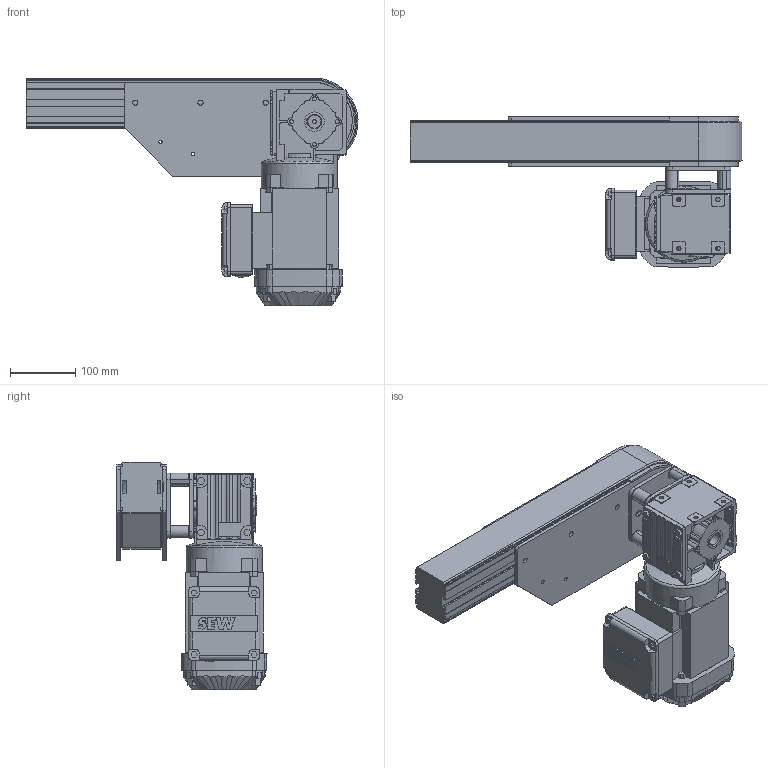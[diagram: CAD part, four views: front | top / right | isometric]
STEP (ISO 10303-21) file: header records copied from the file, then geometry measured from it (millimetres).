
FILE_DESCRIPTION(/* description */ (''),/* implementation_level */ '2;1');
FILE_NAME(/* name */ 'C:\Users\mikael.ljungberg\OneDrive - Carryline AB\Skrivbordet\Tillfalliga_filer\620-30-VRx-2xx.stp',/* time_stamp */ '2021-04-26T07:26:17+02:00',/* author */ ('ML'),/* organization */ (''),/* preprocessor_version */ 'ST-DEVELOPER v18.1',/* originating_system */ 'Autodesk Inventor 2020',/* authorisation */ '');
FILE_SCHEMA (('AUTOMOTIVE_DESIGN { 1 0 10303 214 3 1 1 }'));
Length unit declared in the file: millimetre
Products named in the file (12): 620-30-VRx-2xx; 620-30-xRx-x-xx; Serie 620 Drivenhet; 620-1000+620-2000-01; 900-3010L; 900-3010R; 900-2120R; 900-2120L; 900-3075; 900-3077; 900-3150; 900-4030
Assembly tree (14 placements, depth 4):
  620-30-VRx-2xx
    620-30-xRx-x-xx
      Serie 620 Drivenhet
        620-1000+620-2000-01
        900-3010L
        900-3010R
      900-2120R
      900-2120L
      900-3075
      900-3077
      900-3150  x4
    900-4030
Bounding box: 509.95 x 230.41 x 350.2 mm (x, y, z)
Volume: 7214411.8 mm3; surface area: 767543.7 mm2
Topology: 12 solids, 14 shells, 1026 faces, 2884 edges, 1917 vertices
Faces by surface type: plane 530, cylinder 385, cone 59, bspline 33, torus 17, sphere 2
Full cylindrical faces by diameter (mm): 5 x4, 6 x9, 6.6 x8, 6.647 x4, 8 x10, 8.5 x8, 20 x1, 25 x1, 26 x3, 28 x1, 30 x2, 37 x1, 45 x2, 117 x1
Entity records: 35242 total; most frequent: CARTESIAN_POINT 8314, DIRECTION 5588, ORIENTED_EDGE 5586, EDGE_CURVE 2793, AXIS2_PLACEMENT_3D 1941, VERTEX_POINT 1860, LINE 1706, VECTOR 1706
